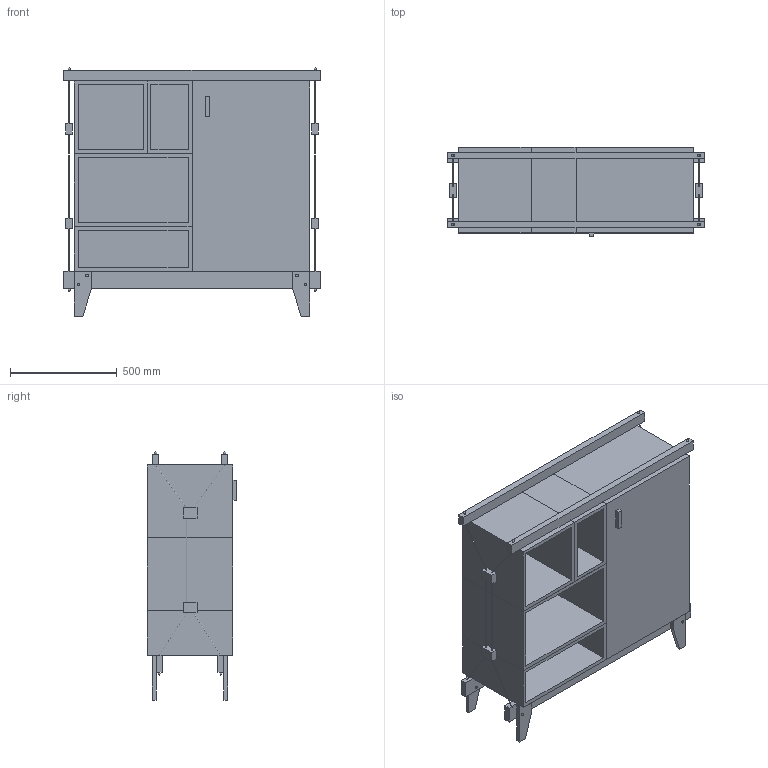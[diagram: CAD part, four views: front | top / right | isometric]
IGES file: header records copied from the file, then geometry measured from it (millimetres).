
Start section: Data from Parasolid IGES Translator 17.0.49, Copyright(c) 2006 Siemens P LM Software. All Rights Reserved.
Global section: file name: Saam B.igs; native system: By Siemens PLM Incorporated; preprocessor: XPlus GENERIC/IGES 17.0.49; author: Noname; organization: Noname; date: 20170605.063243; units: metre
Bounding box: 1200 x 418 x 1162 mm (x, y, z)
Volume: 252696696.9 mm3; surface area: 8513282.1 mm2
Topology: 33 solids, 33 shells, 207 faces, 404 edges, 268 vertices
Faces by surface type: plane 171, cylinder 28, sphere 8
Full cylindrical faces by diameter (mm): 3 x12, 12 x16
